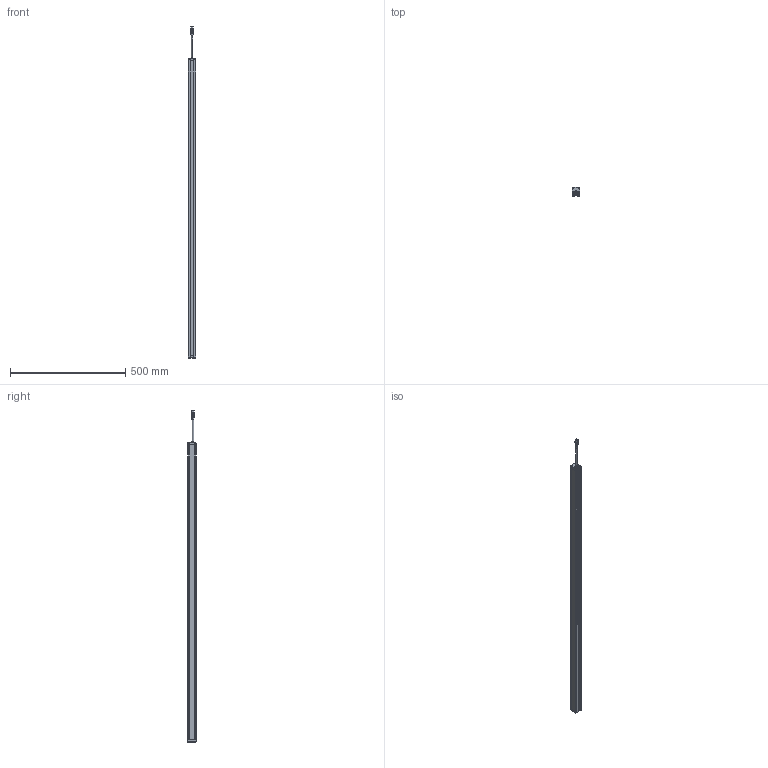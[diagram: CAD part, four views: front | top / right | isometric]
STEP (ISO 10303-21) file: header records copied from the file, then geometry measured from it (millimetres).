
FILE_DESCRIPTION((''),'2;1');
FILE_NAME('PRT0031','2026-03-31T13:41:00',('Administrator'),(''),'CREO PARAMETRIC BY PTC INC, 2016510','CREO PARAMETRIC BY PTC INC, 2016510','');
FILE_SCHEMA(('AUTOMOTIVE_DESIGN { 1 0 10303 214 1 1 1 1 }'));
Length unit declared in the file: millimetre
Products named in the file (1): PRT0031
Bounding box: 33 x 38 x 1441.9 mm (x, y, z)
Surface area: 284289.7 mm2 (no closed solid volume)
Topology: 0 solids, 12 shells, 813 faces, 2146 edges, 1352 vertices
Faces by surface type: plane 384, cylinder 233, extrusion 88, sphere 40, torus 36, cone 28, bspline 4
Entity records: 31910 total; most frequent: CARTESIAN_POINT 6025, ORIENTED_EDGE 4188, DIRECTION 3964, EDGE_CURVE 2094, VERTEX_POINT 1352, AXIS2_PLACEMENT_3D 1347, VECTOR 1270, LINE 1182
